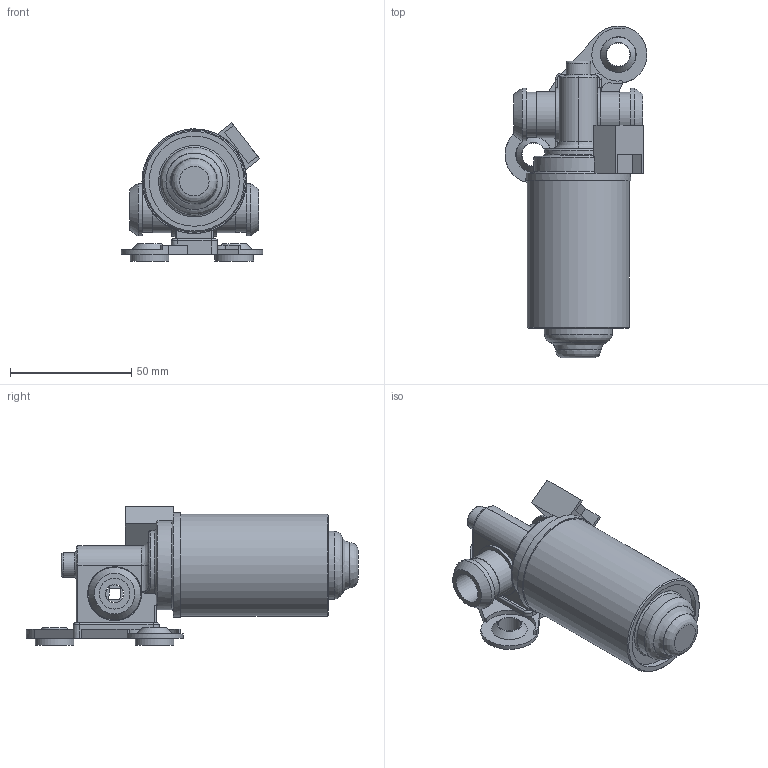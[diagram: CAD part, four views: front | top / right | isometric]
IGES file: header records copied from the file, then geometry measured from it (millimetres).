
Global section: file name: No Iges File Name specified; native system: AutoDesk Inventor R5.0; preprocessor: AutoDesk Inventor Iges Exporter R5.0; author: No Author specified; organization: No Organization specified; date: 20020113.093638; units: inch
Bounding box: 58.52 x 137.02 x 57.02 mm (x, y, z)
Surface area: 28494 mm2 (no closed solid volume)
Topology: 0 solids, 0 shells, 162 faces, 701 edges, 663 vertices
Faces by surface type: plane 83, revolution 64, bspline 15
